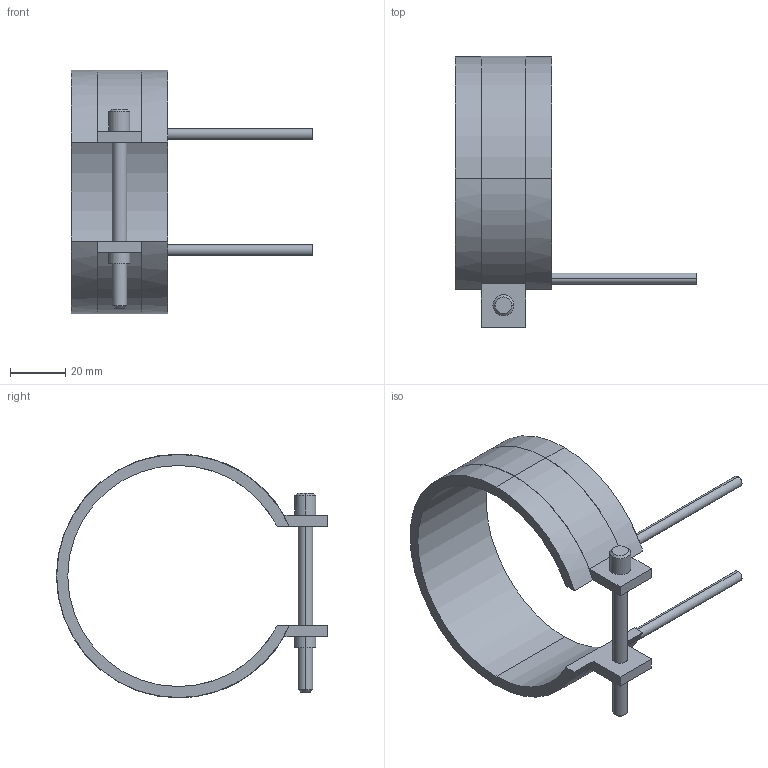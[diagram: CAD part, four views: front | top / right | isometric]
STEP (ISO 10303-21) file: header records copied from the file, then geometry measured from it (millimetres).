
FILE_DESCRIPTION(('CATIA V5 STEP Exchange'),'2;1');
FILE_NAME('C:\Users\Utente\Desktop\IO LAVORO\3D X SITO CF\X SITO\PLASTICA\RF2\14080035.stp','2021-04-03T08:04:31+00:00',('none'),('none'),'CATIA Version 5 Release 20 GA (IN-10)','CATIA V5 STEP AP203','none');
FILE_SCHEMA(('CONFIG_CONTROL_DESIGN'));
Length unit declared in the file: millimetre
Products named in the file (1): 14080035
Bounding box: 87.5 x 98.1 x 88.2 mm (x, y, z)
Volume: 37019.7 mm3; surface area: 21629.5 mm2
Topology: 1 solids, 1 shells, 45 faces, 116 edges, 76 vertices
Faces by surface type: cylinder 24, plane 17, cone 4
Entity records: 1418 total; most frequent: CARTESIAN_POINT 296, ORIENTED_EDGE 232, DIRECTION 194, EDGE_CURVE 116, AXIS2_PLACEMENT_3D 102, VERTEX_POINT 76, CIRCLE 60, VECTOR 52
